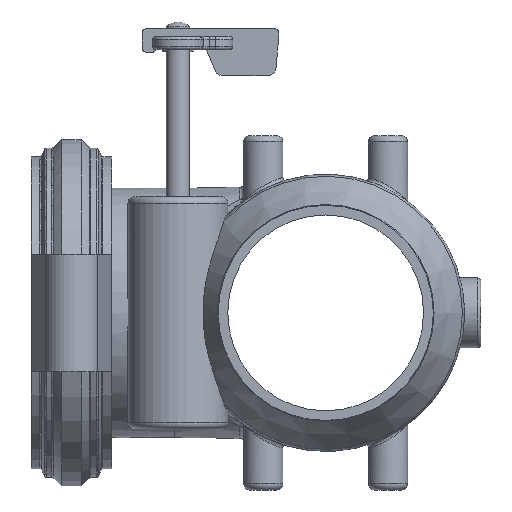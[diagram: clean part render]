
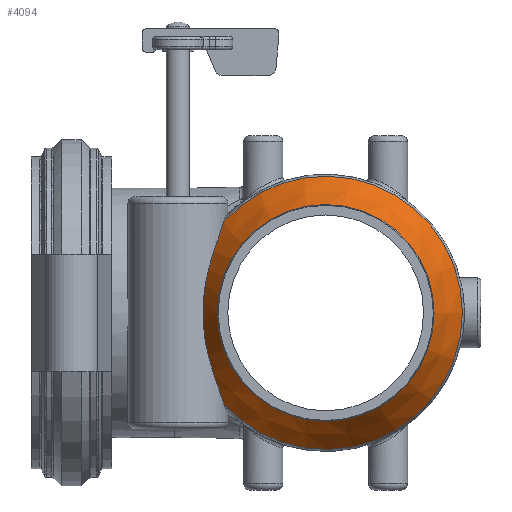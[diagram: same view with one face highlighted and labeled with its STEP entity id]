
A CAD part, left-side view. The second image highlights one B-rep face of the part: STEP entity #4094.
In plain terms, the highlighted conical face has half-angle 30 degrees and reference radius 99.799 mm.
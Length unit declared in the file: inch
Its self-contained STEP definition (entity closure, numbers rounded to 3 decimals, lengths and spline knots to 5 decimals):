
#83=CONICAL_SURFACE('',#4531,3.92911,0.524);
#185=B_SPLINE_CURVE_WITH_KNOTS('',3,(#8217,#8218,#8219,#8220,#8221,#8222,
#8223,#8224,#8225,#8226,#8227,#8228,#8229,#8230,#8231,#8232,#8233,#8234,
#8235,#8236,#8237,#8238,#8239,#8240,#8241,#8242),.UNSPECIFIED.,.F.,.F.,
(4,2,2,2,2,2,2,2,2,2,2,2,4),(17.75694,19.02032,21.19601,
22.28386,23.37171,24.45955,25.5474,26.63525,
27.7231,28.81094,29.89879,32.07449,33.33786),
 .UNSPECIFIED.);
#564=CIRCLE('',#4532,3.47546);
#565=CIRCLE('',#4533,3.47546);
#566=CIRCLE('',#4534,4.38276);
#567=CIRCLE('',#4535,4.38276);
#568=CIRCLE('',#4536,3.47546);
#815=FACE_OUTER_BOUND('',#1055,.T.);
#1055=EDGE_LOOP('',(#3474,#3475,#3476,#3477,#3478,#3479,#3480,#3481));
#1270=LINE('',#8706,#1474);
#1474=VECTOR('',#5608,3.92911);
#1780=VERTEX_POINT('',#8207);
#1781=VERTEX_POINT('',#8216);
#1815=VERTEX_POINT('',#8700);
#1816=VERTEX_POINT('',#8701);
#1817=VERTEX_POINT('',#8703);
#1818=VERTEX_POINT('',#8705);
#2314=EDGE_CURVE('',#1781,#1780,#185,.T.);
#2383=EDGE_CURVE('',#1815,#1816,#564,.T.);
#2384=EDGE_CURVE('',#1817,#1815,#565,.T.);
#2385=EDGE_CURVE('',#1817,#1818,#1270,.T.);
#2386=EDGE_CURVE('',#1818,#1781,#566,.T.);
#2387=EDGE_CURVE('',#1780,#1818,#567,.T.);
#2388=EDGE_CURVE('',#1816,#1817,#568,.T.);
#3474=ORIENTED_EDGE('',*,*,#2383,.F.);
#3475=ORIENTED_EDGE('',*,*,#2384,.F.);
#3476=ORIENTED_EDGE('',*,*,#2385,.T.);
#3477=ORIENTED_EDGE('',*,*,#2386,.T.);
#3478=ORIENTED_EDGE('',*,*,#2314,.T.);
#3479=ORIENTED_EDGE('',*,*,#2387,.T.);
#3480=ORIENTED_EDGE('',*,*,#2385,.F.);
#3481=ORIENTED_EDGE('',*,*,#2388,.F.);
#4094=ADVANCED_FACE('',(#815),#83,.T.);
#4531=AXIS2_PLACEMENT_3D('',#8699,#5602,#5603);
#4532=AXIS2_PLACEMENT_3D('',#8702,#5604,#5605);
#4533=AXIS2_PLACEMENT_3D('',#8704,#5606,#5607);
#4534=AXIS2_PLACEMENT_3D('',#8707,#5609,#5610);
#4535=AXIS2_PLACEMENT_3D('',#8708,#5611,#5612);
#4536=AXIS2_PLACEMENT_3D('',#8709,#5613,#5614);
#5602=DIRECTION('center_axis',(1.,0.,0.));
#5603=DIRECTION('ref_axis',(0.,1.,0.));
#5604=DIRECTION('center_axis',(-1.,0.,0.));
#5605=DIRECTION('ref_axis',(0.,0.,1.));
#5606=DIRECTION('center_axis',(-1.,0.,0.));
#5607=DIRECTION('ref_axis',(0.,0.,1.));
#5608=DIRECTION('',(0.866,-0.5,0.));
#5609=DIRECTION('center_axis',(-1.,0.,0.));
#5610=DIRECTION('ref_axis',(0.,0.,1.));
#5611=DIRECTION('center_axis',(-1.,0.,0.));
#5612=DIRECTION('ref_axis',(0.,0.,1.));
#5613=DIRECTION('center_axis',(-1.,0.,0.));
#5614=DIRECTION('ref_axis',(0.,0.,1.));
#8207=CARTESIAN_POINT('',(-4.56646,3.26352,-2.92541));
#8216=CARTESIAN_POINT('',(-4.56646,3.26352,2.92541));
#8217=CARTESIAN_POINT('Ctrl Pts',(-4.56646,3.26352,2.92541));
#8218=CARTESIAN_POINT('Ctrl Pts',(-4.66375,3.30415,2.79594));
#8219=CARTESIAN_POINT('Ctrl Pts',(-4.75087,3.35182,2.6595));
#8220=CARTESIAN_POINT('Ctrl Pts',(-4.96,3.48902,2.271));
#8221=CARTESIAN_POINT('Ctrl Pts',(-5.06138,3.58359,2.00624));
#8222=CARTESIAN_POINT('Ctrl Pts',(-5.17371,3.7077,1.59113));
#8223=CARTESIAN_POINT('Ctrl Pts',(-5.2047,3.74625,1.44967));
#8224=CARTESIAN_POINT('Ctrl Pts',(-5.25565,3.81422,1.1629));
#8225=CARTESIAN_POINT('Ctrl Pts',(-5.27564,3.84363,1.0176));
#8226=CARTESIAN_POINT('Ctrl Pts',(-5.30654,3.89112,0.72578));
#8227=CARTESIAN_POINT('Ctrl Pts',(-5.31746,3.90919,0.57925));
#8228=CARTESIAN_POINT('Ctrl Pts',(-5.33172,3.93314,0.28774));
#8229=CARTESIAN_POINT('Ctrl Pts',(-5.33507,3.93901,0.14276));
#8230=CARTESIAN_POINT('Ctrl Pts',(-5.33507,3.93901,-0.14276));
#8231=CARTESIAN_POINT('Ctrl Pts',(-5.33172,3.93314,-0.28774));
#8232=CARTESIAN_POINT('Ctrl Pts',(-5.31746,3.90919,-0.57925));
#8233=CARTESIAN_POINT('Ctrl Pts',(-5.30654,3.89112,-0.72578));
#8234=CARTESIAN_POINT('Ctrl Pts',(-5.27564,3.84363,-1.0176));
#8235=CARTESIAN_POINT('Ctrl Pts',(-5.25565,3.81422,-1.1629));
#8236=CARTESIAN_POINT('Ctrl Pts',(-5.2047,3.74625,-1.44967));
#8237=CARTESIAN_POINT('Ctrl Pts',(-5.17371,3.7077,-1.59113));
#8238=CARTESIAN_POINT('Ctrl Pts',(-5.06138,3.58359,-2.00624));
#8239=CARTESIAN_POINT('Ctrl Pts',(-4.96,3.48902,-2.271));
#8240=CARTESIAN_POINT('Ctrl Pts',(-4.75087,3.35182,-2.6595));
#8241=CARTESIAN_POINT('Ctrl Pts',(-4.66375,3.30415,-2.79594));
#8242=CARTESIAN_POINT('Ctrl Pts',(-4.56646,3.26352,-2.92541));
#8699=CARTESIAN_POINT('Origin',(-5.35221,0.,0.));
#8700=CARTESIAN_POINT('',(-6.13796,3.47546,0.));
#8701=CARTESIAN_POINT('',(-6.13796,0.,-3.47546));
#8702=CARTESIAN_POINT('Origin',(-6.13796,0.,0.));
#8703=CARTESIAN_POINT('',(-6.13796,-3.47546,0.));
#8704=CARTESIAN_POINT('Origin',(-6.13796,0.,0.));
#8705=CARTESIAN_POINT('',(-4.56646,-4.38276,0.));
#8706=CARTESIAN_POINT('',(-5.35221,-3.92911,0.));
#8707=CARTESIAN_POINT('Origin',(-4.56646,0.,0.));
#8708=CARTESIAN_POINT('Origin',(-4.56646,0.,0.));
#8709=CARTESIAN_POINT('Origin',(-6.13796,0.,0.));
